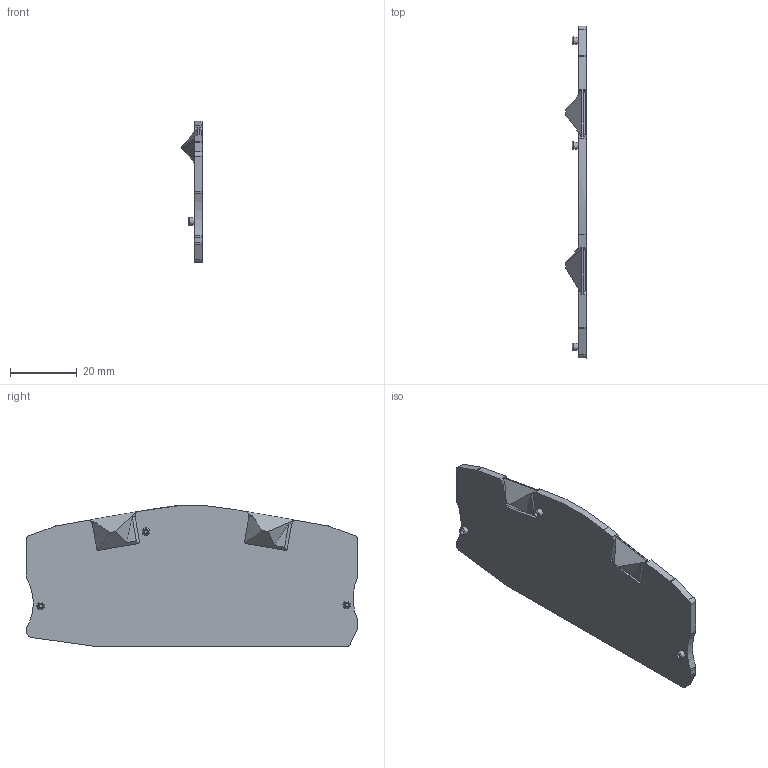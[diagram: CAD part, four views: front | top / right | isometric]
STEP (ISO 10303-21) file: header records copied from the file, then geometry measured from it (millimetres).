
FILE_DESCRIPTION( ('This file contains a STEP AP42 implementation' ,'as created by ZW3D STEP Interface translator.') ,'2;1' );
FILE_NAME( 'D-VPR-6-RTK-S.stp' ,'24 726.114456', (''), ('ZWCAD Software Co.'), 'Version 1.0', 'ZW3D to STEP translator', '' );
FILE_SCHEMA(('AUTOMOTIVE_DESIGN { 1 0 10303 214 1 1 1 1 }'));
Length unit declared in the file: millimetre
Products named in the file (2): 0; D-RPV6-RTK-S 傷啣
Bounding box: 6.05 x 99.8 x 42.48 mm (x, y, z)
Volume: 8488.4 mm3; surface area: 8430.1 mm2
Topology: 1 solids, 1 shells, 106 faces, 283 edges, 185 vertices
Faces by surface type: plane 68, cylinder 28, cone 6, torus 3, bspline 1
Entity records: 3644 total; most frequent: CARTESIAN_POINT 937, ORIENTED_EDGE 566, DIRECTION 497, EDGE_CURVE 283, VECTOR 187, LINE 187, VERTEX_POINT 185, AXIS2_PLACEMENT_3D 155
